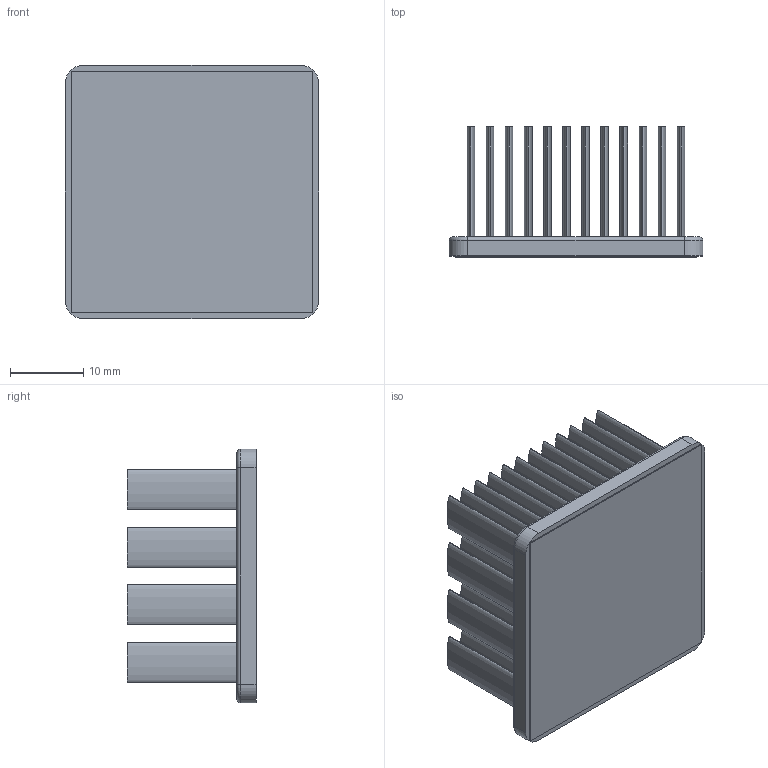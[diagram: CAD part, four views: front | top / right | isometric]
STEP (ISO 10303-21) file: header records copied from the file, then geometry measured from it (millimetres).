
FILE_DESCRIPTION (( 'STEP AP214' ), '1' );
FILE_NAME ('INM35001-18W-2.6.STEP', '2023-02-20T22:51:04', ( '' ), ( '' ), 'SwSTEP 2.0', 'SolidWorks 2020', '' );
FILE_SCHEMA (( 'AUTOMOTIVE_DESIGN' ));
Length unit declared in the file: inch
Products named in the file (1): INM35001-18W-2.6
Bounding box: 34.6 x 17.73 x 34.6 mm (x, y, z)
Volume: 6524.2 mm3; surface area: 13143.6 mm2
Topology: 2 solids, 2 shells, 168 faces, 340 edges, 224 vertices
Faces by surface type: bspline 96, plane 60, cylinder 8, torus 4
Entity records: 6823 total; most frequent: CARTESIAN_POINT 1981, ORIENTED_EDGE 680, EDGE_CURVE 340, DIRECTION 314, VERTEX_POINT 224, EDGE_LOOP 216, DIMENSIONAL_EXPONENTS 172, LENGTH_MEASURE_WITH_UNIT 172
